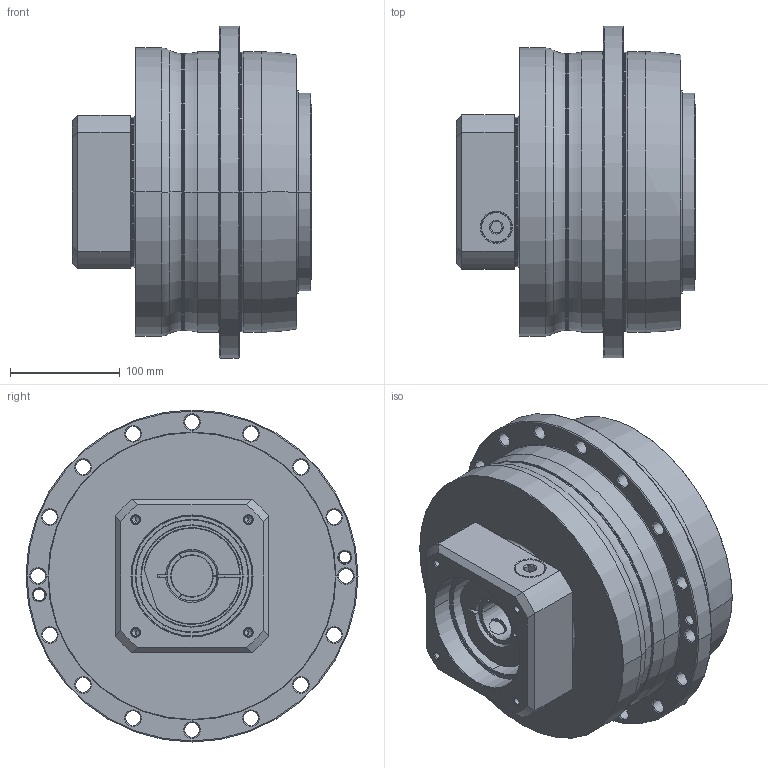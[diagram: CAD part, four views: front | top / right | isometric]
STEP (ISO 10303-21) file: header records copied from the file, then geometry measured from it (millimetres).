
FILE_DESCRIPTION((''),'2;1');
FILE_NAME('AH255_1ST_38-P0409900101_ASM','2016-10-04T',('d00435'),(''),'PRO/ENGINEER BY PARAMETRIC TECHNOLOGY CORPORATION, 2008410','PRO/ENGINEER BY PARAMETRIC TECHNOLOGY CORPORATION, 2008410','');
FILE_SCHEMA(('CONFIG_CONTROL_DESIGN'));
Length unit declared in the file: millimetre
Products named in the file (8): P0278700003; P0359700003; P1318700101; P0409900101; P0503900012; P0912701201; 21711422019; AH255_1ST_38-P0409900101_ASM
Assembly tree (7 placements, depth 2):
  AH255_1ST_38-P0409900101_ASM
    P0278700003
    P0359700003
    P1318700101
    P0409900101
    P0503900012
    P0912701201
    21711422019
Bounding box: 218 x 302 x 302 mm (x, y, z)
Volume: 8833920.6 mm3; surface area: 691450.6 mm2
Topology: 8 solids, 34 shells, 648 faces, 1531 edges, 925 vertices
Faces by surface type: cylinder 268, cone 190, plane 116, torus 60, bspline 14
Entity records: 23199 total; most frequent: CARTESIAN_POINT 7817, DIRECTION 3535, ORIENTED_EDGE 2866, AXIS2_PLACEMENT_3D 1503, EDGE_CURVE 1485, VERTEX_POINT 925, CIRCLE 842, EDGE_LOOP 770
